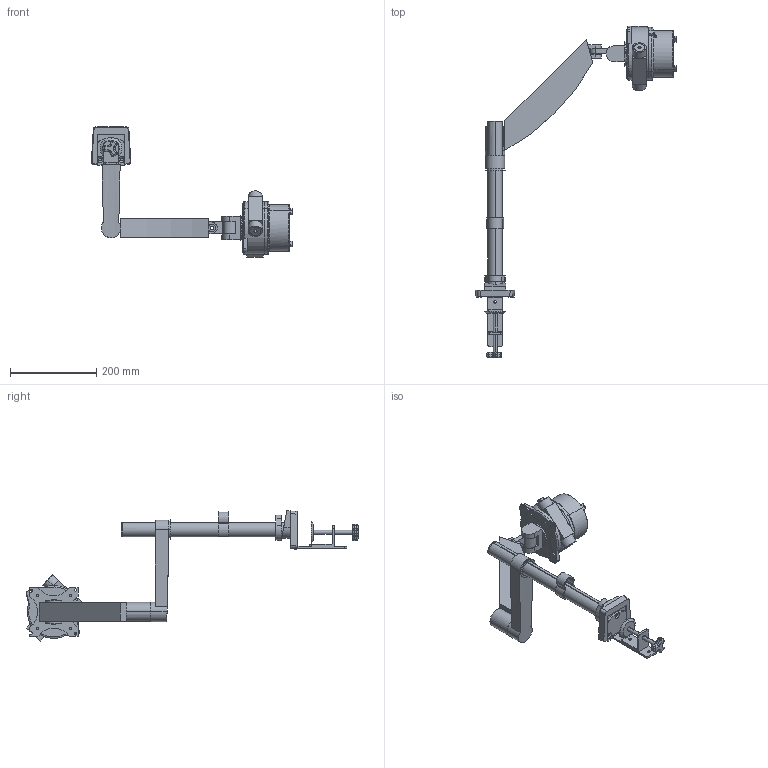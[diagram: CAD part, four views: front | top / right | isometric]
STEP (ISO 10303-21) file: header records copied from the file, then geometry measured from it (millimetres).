
FILE_DESCRIPTION (( 'STEP AP203' ), '1' );
FILE_NAME ('EXHL-TBL-LE1-V.STEP', '2018-02-19T15:53:30', ( '' ), ( '' ), 'SwSTEP 2.0', 'SolidWorks 2016', '' );
FILE_SCHEMA (( 'CONFIG_CONTROL_DESIGN' ));
Length unit declared in the file: inch
Products named in the file (1): EXHL-TBL-LE1-V
Bounding box: 465.92 x 768.94 x 301.35 mm (x, y, z)
Volume: 1925401.2 mm3; surface area: 452700.7 mm2
Topology: 12 solids, 12 shells, 579 faces, 1422 edges, 871 vertices
Faces by surface type: cylinder 260, plane 220, torus 63, sphere 22, cone 10, bspline 4
Entity records: 18046 total; most frequent: CARTESIAN_POINT 4095, DIRECTION 3076, ORIENTED_EDGE 2804, EDGE_CURVE 1402, AXIS2_PLACEMENT_3D 1190, VERTEX_POINT 867, VECTOR 696, LINE 696
